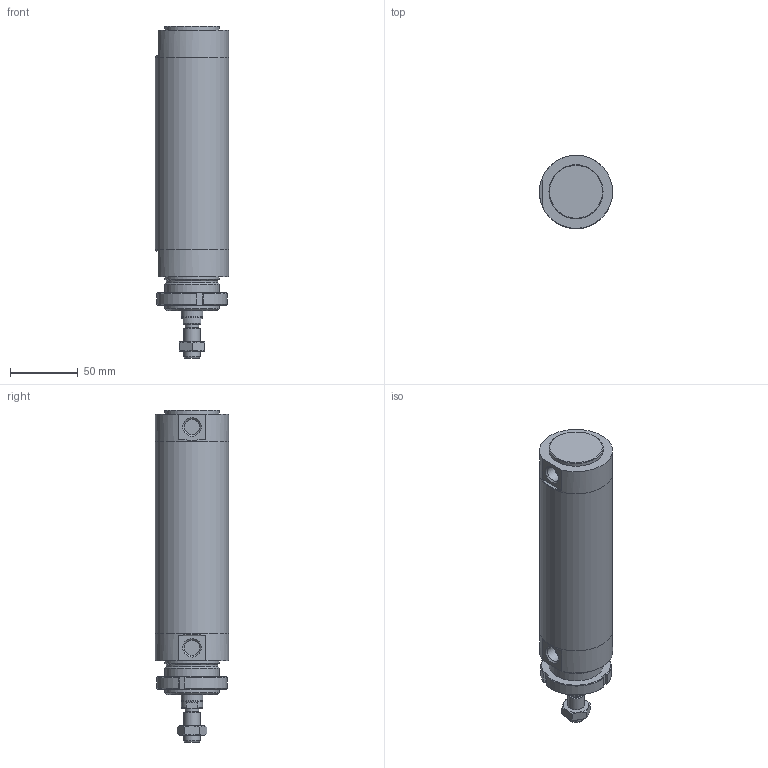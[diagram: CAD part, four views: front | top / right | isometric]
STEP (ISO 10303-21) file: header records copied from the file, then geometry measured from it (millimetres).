
FILE_DESCRIPTION(/* description */ (''),/* implementation_level */ '2;1');
FILE_NAME(/* name */ 'I:\Area Tecnica\Documenti\A-Manieri\_Inventor\12X\12X#D_###_####_#_#\12XAD_050_0100_#_#.stp',/* time_stamp */ '2015-04-29T16:44:11+02:00',/* author */ ('maniean1'),/* organization */ ('Pneumax S.p.A.'),/* preprocessor_version */ 'ST-DEVELOPER v15.2',/* originating_system */ 'Autodesk Inventor 2014',/* authorisation */ '');
FILE_SCHEMA (('AUTOMOTIVE_DESIGN { 1 0 10303 214 3 1 1 }'));
Length unit declared in the file: millimetre
Products named in the file (7): C1250_619-0100; 12X50_604; S12X50_0100; 12X_50_11; 12X50_611; G12X_050_05; 12XAD_050_0100_#_#
Bounding box: 54 x 54 x 245 mm (x, y, z)
Volume: 288248.2 mm3; surface area: 93230.8 mm2
Topology: 6 solids, 6 shells, 81 faces, 175 edges, 112 vertices
Faces by surface type: plane 41, cylinder 21, cone 19
Full cylindrical faces by diameter (mm): 10.2 x1, 11.4 x2, 12 x2, 14 x1, 15.6 x1, 16 x1, 38.2 x1, 40 x4, 50 x2, 54 x3
Entity records: 2155 total; most frequent: CARTESIAN_POINT 400, DIRECTION 364, ORIENTED_EDGE 284, AXIS2_PLACEMENT_3D 156, EDGE_CURVE 142, EDGE_LOOP 124, VERTEX_POINT 108, ADVANCED_FACE 81
